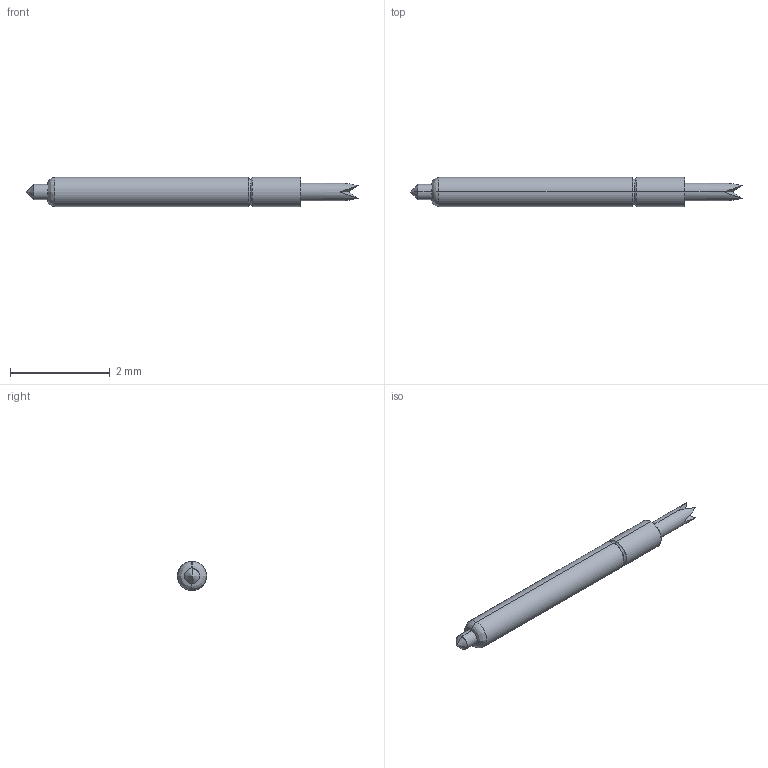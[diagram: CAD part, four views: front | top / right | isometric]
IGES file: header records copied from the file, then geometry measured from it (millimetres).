
Start section: SolidWorks IGES file using analytic representation for surfaces
Global section: file name: Z:\probe solid model mockups\Solidworks models\IGES Files\CSP8-20 IGES files\CSP8-20LB RECD.IGS; native system: SolidWorks 2006 by SolidWorks Corporation; preprocessor: SolidWorks 2006 by SolidWorks Corporation; author: tsakatani; date: 080108.153015; units: inch
Bounding box: 6.65 x 0.58 x 0.58 mm (x, y, z)
Surface area: 11.4 mm2 (no closed solid volume)
Topology: 0 solids, 0 shells, 25 faces, 142 edges, 140 vertices
Faces by surface type: bspline 15, revolution 10
